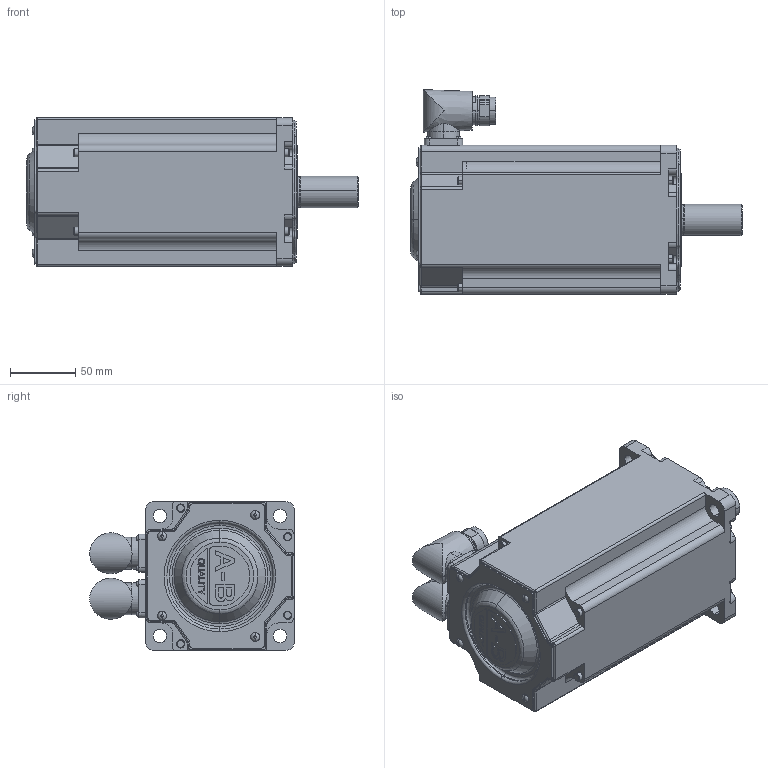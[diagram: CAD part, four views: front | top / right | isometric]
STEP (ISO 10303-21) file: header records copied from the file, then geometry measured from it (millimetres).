
FILE_DESCRIPTION (( 'STEP AP214' ), '1' );
FILE_NAME ('Rockwell Automation-MPL-x4540x-xK72AA.STEP', '2015-06-25T12:14:49', ( 'Windows User' ), ( '' ), 'SwSTEP 2.0', 'SolidWorks 2015', '' );
FILE_SCHEMA (( 'AUTOMOTIVE_DESIGN' ));
Length unit declared in the file: inch
Products named in the file (5): Rockwell Automation-MPL-x4540x-xK72AA_MPL-3xx-Encoder Connector; Rockwell Automation-MPL-x4540x-xK72AA_MPL-3xx-Power Connector; Rockwell Automation-MPL-x4540x-xK72AA_MPL-45xx-Shaft_4540-SHAFT-KEYLESS; Rockwell Automation-MPL-x4540x-xK72AA_MPL-45xx-Body_4540; Rockwell Automation-MPL-x4540x-xK72AA
Assembly tree (4 placements, depth 2):
  Rockwell Automation-MPL-x4540x-xK72AA
    Rockwell Automation-MPL-x4540x-xK72AA_MPL-45xx-Body_4540
    Rockwell Automation-MPL-x4540x-xK72AA_MPL-45xx-Shaft_4540-SHAFT-KEYLESS
    Rockwell Automation-MPL-x4540x-xK72AA_MPL-3xx-Power Connector
    Rockwell Automation-MPL-x4540x-xK72AA_MPL-3xx-Encoder Connector
Bounding box: 253.97 x 156.46 x 113.79 mm (x, y, z)
Volume: 1226116.7 mm3; surface area: 226190.8 mm2
Topology: 4 solids, 4 shells, 983 faces, 2417 edges, 1536 vertices
Faces by surface type: cylinder 379, plane 378, cone 99, torus 94, bspline 33
Entity records: 34246 total; most frequent: CARTESIAN_POINT 7377, DIRECTION 5270, ORIENTED_EDGE 4830, EDGE_CURVE 2415, AXIS2_PLACEMENT_3D 2000, VERTEX_POINT 1536, LINE 1270, VECTOR 1270
